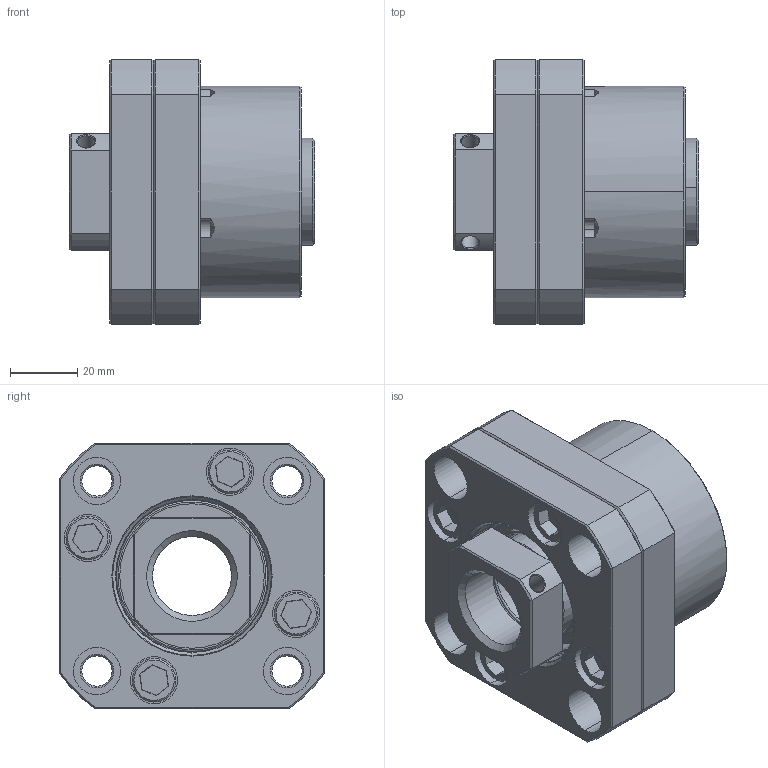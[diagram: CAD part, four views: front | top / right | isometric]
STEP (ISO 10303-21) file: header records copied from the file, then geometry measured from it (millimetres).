
FILE_DESCRIPTION (( 'STEP AP203' ), '1' );
FILE_NAME ('FK25A²Õ¦X¥ó.STEP', '2022-04-01T05:44:54', ( '' ), ( '' ), 'SwSTEP 2.0', 'SolidWorks 2018', '' );
FILE_SCHEMA (( 'CONFIG_CONTROL_DESIGN' ));
Length unit declared in the file: millimetre
Products named in the file (11): EAFK25; 7205內圈; 鎖固螺帽(模型組態)_M25; FK25_網路3D圖檔; FK25蓋; 7205; 螺絲_M8L16; 7205鋼珠7.9375; 7205外圈; FK25A組合件; FK系列密封圈_FK25密封圈
Assembly tree (29 placements, depth 3):
  FK25A組合件
    FK25_網路3D圖檔
    7205  x2
      7205外圈
      7205內圈
      7205鋼珠7.9375
    FK系列密封圈_FK25密封圈  x2
    FK25蓋
    EAFK25  x2
    鎖固螺帽(模型組態)_M25
    螺絲_M8L16  x4
Bounding box: 73 x 79 x 79 mm (x, y, z)
Volume: 191106.4 mm3; surface area: 92191.2 mm2
Topology: 43 solids, 43 shells, 519 faces, 1203 edges, 732 vertices
Faces by surface type: cylinder 143, plane 113, cone 111, torus 92, sphere 56, bspline 4
Entity records: 11224 total; most frequent: CARTESIAN_POINT 2106, DIRECTION 1739, ORIENTED_EDGE 1430, AXIS2_PLACEMENT_3D 743, EDGE_CURVE 715, VERTEX_POINT 422, CIRCLE 393, EDGE_LOOP 381
